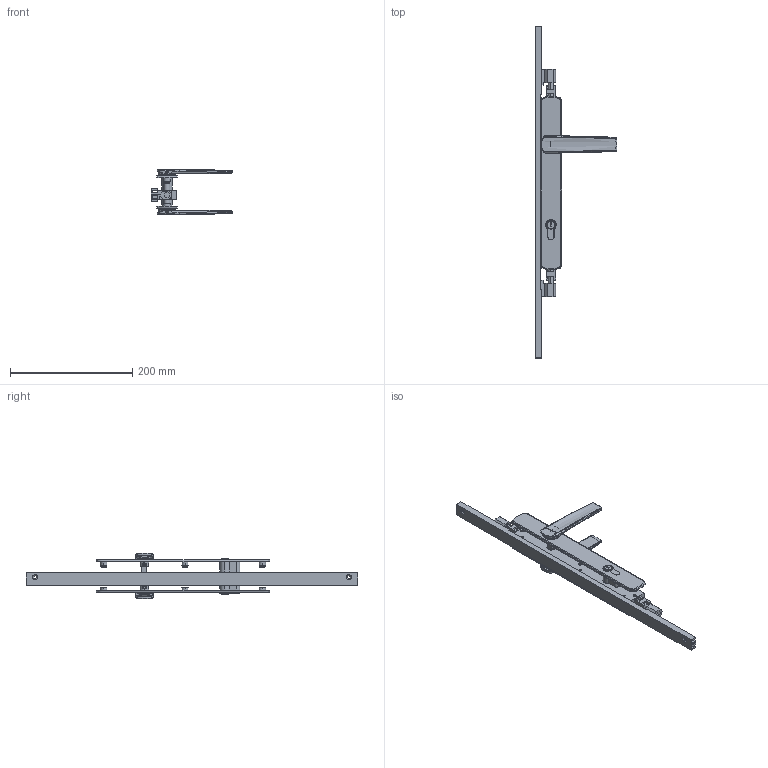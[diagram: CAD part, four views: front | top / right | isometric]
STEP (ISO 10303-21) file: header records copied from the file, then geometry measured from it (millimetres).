
FILE_DESCRIPTION (( 'STEP AP214' ), '1' );
FILE_NAME ('TPL-W-APC-613-U 28Oct2024.STEP', '2024-10-28T03:50:04', ( '' ), ( '' ), 'SwSTEP 2.0', 'SolidWorks 2023', '' );
FILE_SCHEMA (( 'AUTOMOTIVE_DESIGN' ));
Length unit declared in the file: millimetre
Products named in the file (24): Copy of COV-115-A Cover A suit TPLGen2 standard range AU with hinge holes^TPL-W-APC-113 18Oct2024_2870mm; TPL-W-APC-613-U 28Oct2024; Copy of TPGen2 handle keyed external zinc - simplified^TPL-W-APC-113 18Oct2024_Right; Copy of LKC-585 Rotator body zinc^Copy of TPGen2 handle keyed external zinc - simplified_TPL-W-APC-113 18Oct2024; Copy of LKC-586 Spindle square 8mm with M4 hole^Copy of TPGen2 handle keyed internal zinc - simplified_TPL-W-APC-113 18Oct2024_42mm; Copy of Adapter D - simplfied^TPL-W-APC-113 18Oct2024; Copy of TPLGen2 lock body keyed^Copy of TPLGen2 lock body keyed assembly_TPL-W-APC-113 18Oct2024; Copy of TPLGen2 lock body keyed assembly^TPL-W-APC-113 18Oct2024_Bolts retracted; Copy of LKC-505 Swing handle zinc - simplified^Copy of TPGen2 handle keyed external zinc - simplified_TPL-W-APC-113 18Oct2024; Copy of LKC-584 Pivot body zinc - simplified^Copy of TPGen2 handle keyed internal zinc - simplified_TPL-W-APC-113 18Oct2024; Copy of Copy of LKC-531 Lock twinpoint transmission rod wood system^TPL-W-APC-113 18Oct2024_Standard Range 2891.7mm; Bolt.step; Copy of COV-115-C Cover C suit TPLGen2 standard range AU^TPL-W-APC-113 18Oct2024; Copy of LKC-514 Escutcheon plate keyed external 285mm long zinc - simplified^Copy of TPGen2 handle keyed external zinc - simplified_TPL-W-APC-113 18Oct2024; Copy of COV-115-B Cover B suit TPLGen2 standard range AU with hinge holes^TPL-W-APC-113 18Oct2024_2870mm; Copy of LKC-585 Rotator body zinc^Copy of TPGen2 handle keyed internal zinc - simplified_TPL-W-APC-113 18Oct2024; Copy of Copy of Copy of LKC-531 Lock twinpoint transmission rod wood system^TPL-W-APC-113 18Oct2024_Standard Range 2891.7mm; Copy of TPGen2 handle keyed internal zinc - simplified^TPL-W-APC-113 18Oct2024_Left; Copy of Adapter C - simplfied^TPL-W-APC-113 18Oct2024; Copy of LKC-505 Swing handle zinc - simplified^Copy of TPGen2 handle keyed internal zinc - simplified_TPL-W-APC-113 18Oct2024; Copy of TPL-036 Lock cylinder double key C4 3-5 PIN 55 (23-32)mm^TPL-W-APC-113 18Oct2024_Left; Copy of LKC-512 Escutcheon plate keyed internal 285mm long zinc - simplified^Copy of TPGen2 handle keyed internal zinc - simplified_TPL-W-APC-113 18Oct2024; Copy of TPLGen2 push rod - simplified^Copy of TPLGen2 lock body keyed assembly_TPL-W-APC-113 18Oct2024_Female thread M10; Copy of LKC-584 Pivot body zinc - simplified^Copy of TPGen2 handle keyed external zinc - simplified_TPL-W-APC-113 18Oct2024
Assembly tree (21 placements, depth 3):
  Copy of COV-115-A Cover A suit TPLGen2 standard range AU with hinge holes^TPL-W-APC-113 18Oct2024_2870mm
  TPL-W-APC-613-U 28Oct2024
    Copy of TPLGen2 lock body keyed assembly^TPL-W-APC-113 18Oct2024_Bolts retracted
      Copy of TPLGen2 lock body keyed^Copy of TPLGen2 lock body keyed assembly_TPL-W-APC-113 18Oct2024
      Copy of TPLGen2 push rod - simplified^Copy of TPLGen2 lock body keyed assembly_TPL-W-APC-113 18Oct2024_Female thread M10  x2
    Copy of TPGen2 handle keyed internal zinc - simplified^TPL-W-APC-113 18Oct2024_Left
      Copy of LKC-512 Escutcheon plate keyed internal 285mm long zinc - simplified^Copy of TPGen2 handle keyed internal zinc - simplified_TPL-W-APC-113 18Oct2024
      Copy of LKC-505 Swing handle zinc - simplified^Copy of TPGen2 handle keyed internal zinc - simplified_TPL-W-APC-113 18Oct2024
      Copy of LKC-585 Rotator body zinc^Copy of TPGen2 handle keyed internal zinc - simplified_TPL-W-APC-113 18Oct2024
      Copy of LKC-586 Spindle square 8mm with M4 hole^Copy of TPGen2 handle keyed internal zinc - simplified_TPL-W-APC-113 18Oct2024_42mm
      Copy of LKC-584 Pivot body zinc - simplified^Copy of TPGen2 handle keyed internal zinc - simplified_TPL-W-APC-113 18Oct2024
    Copy of TPGen2 handle keyed external zinc - simplified^TPL-W-APC-113 18Oct2024_Right
      Copy of LKC-514 Escutcheon plate keyed external 285mm long zinc - simplified^Copy of TPGen2 handle keyed external zinc - simplified_TPL-W-APC-113 18Oct2024
      Copy of LKC-505 Swing handle zinc - simplified^Copy of TPGen2 handle keyed external zinc - simplified_TPL-W-APC-113 18Oct2024
      Copy of LKC-585 Rotator body zinc^Copy of TPGen2 handle keyed external zinc - simplified_TPL-W-APC-113 18Oct2024
      Copy of LKC-584 Pivot body zinc - simplified^Copy of TPGen2 handle keyed external zinc - simplified_TPL-W-APC-113 18Oct2024
    Copy of TPL-036 Lock cylinder double key C4 3-5 PIN 55 (23-32)mm^TPL-W-APC-113 18Oct2024_Left
    Copy of COV-115-C Cover C suit TPLGen2 standard range AU^TPL-W-APC-113 18Oct2024
    Copy of Copy of LKC-531 Lock twinpoint transmission rod wood system^TPL-W-APC-113 18Oct2024_Standard Range 2891.7mm
    Copy of Copy of Copy of LKC-531 Lock twinpoint transmission rod wood system^TPL-W-APC-113 18Oct2024_Standard Range 2891.7mm
    Copy of Adapter C - simplfied^TPL-W-APC-113 18Oct2024
    Copy of Adapter D - simplfied^TPL-W-APC-113 18Oct2024
  Bolt.step
  Copy of COV-115-B Cover B suit TPLGen2 standard range AU with hinge holes^TPL-W-APC-113 18Oct2024_2870mm
Bounding box: 134.12 x 544 x 74.92 mm (x, y, z)
Volume: 345215.9 mm3; surface area: 170496.4 mm2
Topology: 18 solids, 18 shells, 1379 faces, 3347 edges, 2046 vertices
Faces by surface type: bspline 417, plane 387, cylinder 329, cone 132, torus 98, sphere 16
Entity records: 51947 total; most frequent: CARTESIAN_POINT 22750, ORIENTED_EDGE 6498, DIRECTION 5259, EDGE_CURVE 3249, AXIS2_PLACEMENT_3D 2039, VERTEX_POINT 1986, EDGE_LOOP 1477, FACE_OUTER_BOUND 1344
